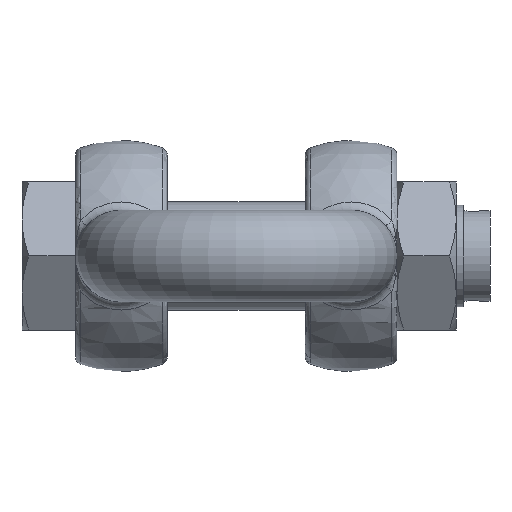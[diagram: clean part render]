
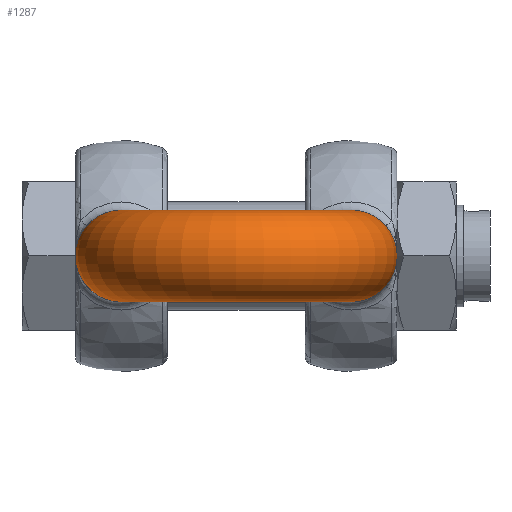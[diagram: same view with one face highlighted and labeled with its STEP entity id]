
A CAD part, front view. The second image highlights one B-rep face of the part: STEP entity #1287.
In plain terms, the highlighted toroidal (fillet/blend) face has major radius 81.5 mm and minor radius 32.5 mm.
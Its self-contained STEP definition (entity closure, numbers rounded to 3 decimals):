
#123=TOROIDAL_SURFACE('',#1460,81.5,32.5);
#234=FACE_OUTER_BOUND('',#323,.T.);
#323=EDGE_LOOP('',(#1029,#1030,#1031,#1032,#1033,#1034));
#486=CIRCLE('',#1458,32.5);
#487=CIRCLE('',#1459,32.5);
#488=CIRCLE('',#1461,49.);
#489=CIRCLE('',#1462,32.5);
#490=CIRCLE('',#1463,32.5);
#579=VERTEX_POINT('',#2944);
#580=VERTEX_POINT('',#2946);
#581=VERTEX_POINT('',#2950);
#582=VERTEX_POINT('',#2952);
#739=EDGE_CURVE('',#579,#580,#486,.T.);
#740=EDGE_CURVE('',#580,#579,#487,.T.);
#741=EDGE_CURVE('',#580,#581,#488,.T.);
#742=EDGE_CURVE('',#581,#582,#489,.T.);
#743=EDGE_CURVE('',#582,#581,#490,.T.);
#1029=ORIENTED_EDGE('',*,*,#740,.F.);
#1030=ORIENTED_EDGE('',*,*,#741,.T.);
#1031=ORIENTED_EDGE('',*,*,#742,.T.);
#1032=ORIENTED_EDGE('',*,*,#743,.T.);
#1033=ORIENTED_EDGE('',*,*,#741,.F.);
#1034=ORIENTED_EDGE('',*,*,#739,.F.);
#1287=ADVANCED_FACE('',(#234),#123,.T.);
#1458=AXIS2_PLACEMENT_3D('',#2947,#1691,#1692);
#1459=AXIS2_PLACEMENT_3D('',#2948,#1693,#1694);
#1460=AXIS2_PLACEMENT_3D('',#2949,#1695,#1696);
#1461=AXIS2_PLACEMENT_3D('',#2951,#1697,#1698);
#1462=AXIS2_PLACEMENT_3D('',#2953,#1699,#1700);
#1463=AXIS2_PLACEMENT_3D('',#2954,#1701,#1702);
#1691=DIRECTION('center_axis',(0.,1.,0.));
#1692=DIRECTION('ref_axis',(1.,0.,0.));
#1693=DIRECTION('center_axis',(0.,1.,0.));
#1694=DIRECTION('ref_axis',(1.,0.,0.));
#1695=DIRECTION('center_axis',(0.,0.,-1.));
#1696=DIRECTION('ref_axis',(-1.,0.,0.));
#1697=DIRECTION('center_axis',(0.,0.,1.));
#1698=DIRECTION('ref_axis',(-1.,0.,0.));
#1699=DIRECTION('center_axis',(0.,-1.,0.));
#1700=DIRECTION('ref_axis',(-1.,0.,0.));
#1701=DIRECTION('center_axis',(0.,-1.,0.));
#1702=DIRECTION('ref_axis',(-1.,0.,0.));
#2944=CARTESIAN_POINT('',(-114.,114.,0.));
#2946=CARTESIAN_POINT('',(-49.,114.,0.));
#2947=CARTESIAN_POINT('Origin',(-81.5,114.,0.));
#2948=CARTESIAN_POINT('Origin',(-81.5,114.,0.));
#2949=CARTESIAN_POINT('Origin',(0.,114.,0.));
#2950=CARTESIAN_POINT('',(49.,114.,0.));
#2951=CARTESIAN_POINT('Origin',(0.,114.,0.));
#2952=CARTESIAN_POINT('',(114.,114.,0.));
#2953=CARTESIAN_POINT('Origin',(81.5,114.,0.));
#2954=CARTESIAN_POINT('Origin',(81.5,114.,0.));
